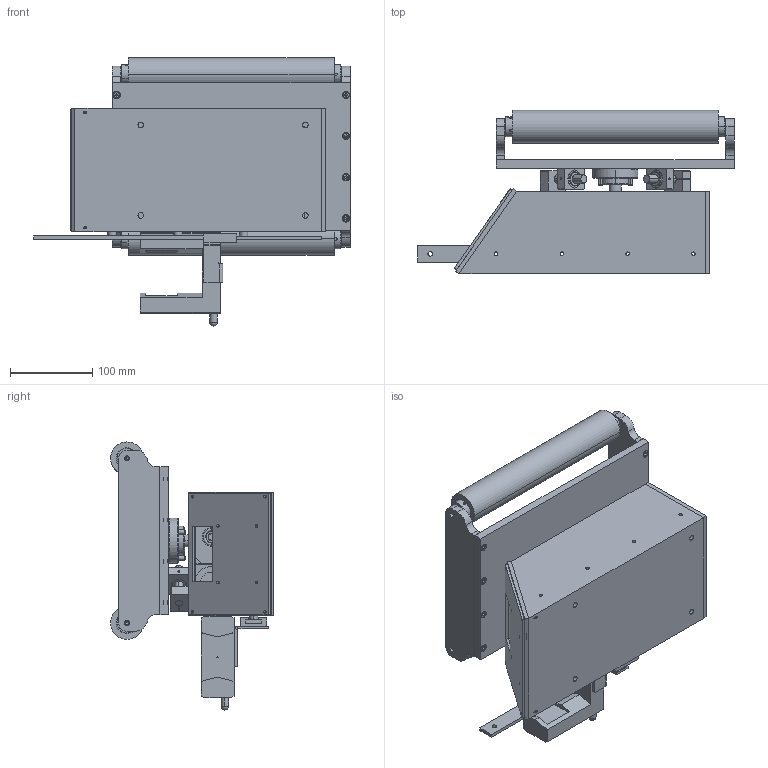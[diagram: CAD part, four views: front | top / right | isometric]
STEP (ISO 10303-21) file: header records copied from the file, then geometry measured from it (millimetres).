
FILE_DESCRIPTION (( 'STEP AP203' ), '1' );
FILE_NAME ('DGM250.STEP', '2017-06-15T05:55:27', ( '微软中国' ), ( '中国微软' ), 'SwSTEP 2.0', 'SolidWorks 2014', '' );
FILE_SCHEMA (( 'CONFIG_CONTROL_DESIGN' ));
Length unit declared in the file: millimetre
Products named in the file (44): 萇儂; YZ-DGS250-04綴釱; YZ-DGS250-11狟盓傅; YZ-DGS250-03蟀諉粣; DGM250; YZ-DGS250-18-02前板; YZ-DGS250-25-01萇儂肮祭謫; YZ-DGS250-06嫖裝; YZ-DGS250-12盓傅裝; YZ-DGS250-09蛌郋釱; YZ-DGS250-18-03前板(有机玻璃); 萇儂痄雄; YZ-DGS250-08-01幗紩佪裝; YZ-DGS250-18-01綴啣; YZ-DGS250-10奻盓傅; YZ-DGS250-22覃誹殤盓傅; 6000; YZ-DGS250-08-02幗紩佪裝賑輸; YZ-DGS250-21綴砎蝶菜; 壽誹; YZ-DGS250-23调节架热垫块; YZ-DGS250-15-01臏幕芠; 629; 蚾饜极6; 奻啣2; YZ-DGS250-24覃誹殤賑輸; YZ-DGS250-15-02臏幕芠嘐隅; YZ-DGS250-07带轮挡圈; YZ-DGS250-05菁啣; hexagon socket head cap screws gb_GB_FASTENER_SCREWS_HSHCS M5X25-N; YZ-DGS250-26抻芛假蚾殤; YZ-DGS250-15-02臏幕粣; YZ-DGS250-25-01植雄謫; YZ-DGS250-01 ヶ釱; 奻窒; YZ-DGS200-13奻啣; SU-E諷芛; 臏幕; LM8; YZ-DGS250-02賑輸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
Assembly tree (70 placements, depth 3):
  DGM250
    奻窒
      YZ-DGS200-13奻啣
      6200
      YZ-DGS250-03蟀諉粣
      YZ-DGS250-09蛌郋釱
      YZ-DGS250-10奻盓傅  x2
      壽誹  x2
      奻啣2  x2
      hexagon socket head cap screws gb_GB_FASTENER_SCREWS_HSHCS M5X25-N  x15
    蚾饜极6
      YZ-DGS250-14臏倰第遺殤
      YZ-DGS250-11狟盓傅  x2
      YZ-DGS250-12盓傅裝  x2
      YZ-DGS250-18-01綴啣
      YZ-DGS250-21綴砎蝶菜
    萇儂痄雄
      YZ-DGS250-05菁啣
      YZ-DGS250-01 ヶ釱
      YZ-DGS250-02賑輸
      YZ-DGS250-04綴釱
      YZ-DGS250-06嫖裝  x2
      YZ-DGS250-08-01幗紩佪裝
      YZ-DGS250-08-02幗紩佪裝賑輸
      629  x2
      YZ-DGS250-07带轮挡圈
      YZ-DGS250-25-01植雄謫
      LM8  x2
      萇儂
      YZ-DGS250-25-01萇儂肮祭謫
    臏幕  x2
      6000
      YZ-DGS250-15-01臏幕芠
      YZ-DGS250-15-02臏幕芠嘐隅
      YZ-DGS250-15-02臏幕粣
    YZ-DGS250-20前橡胶垫
    YZ-DGS250-18-02前板
    YZ-DGS250-18-03前板(有机玻璃)
    抻芛蚾饜
      YZ-DGS250-22覃誹殤盓傅
      YZ-DGS250-23调节架热垫块  x3
      YZ-DGS250-24覃誹殤賑輸
      YZ-DGS250-26抻芛假蚾殤
      SU-E諷芛
Bounding box: 384.57 x 198.14 x 325.96 mm (x, y, z)
Volume: 2879061.9 mm3; surface area: 924611.3 mm2
Topology: 70 solids, 70 shells, 1852 faces, 4469 edges, 2858 vertices
Faces by surface type: cylinder 990, plane 683, cone 114, torus 58, sphere 5, bspline 2
Entity records: 44736 total; most frequent: CARTESIAN_POINT 7838, DIRECTION 7125, ORIENTED_EDGE 6092, EDGE_CURVE 3046, AXIS2_PLACEMENT_3D 2858, VERTEX_POINT 2004, EDGE_LOOP 1688, CIRCLE 1559
